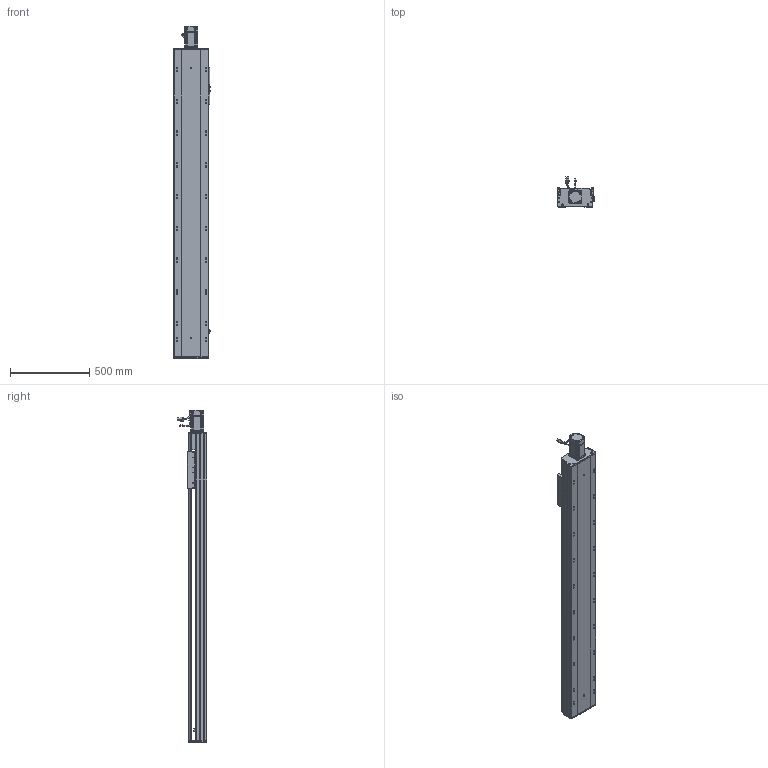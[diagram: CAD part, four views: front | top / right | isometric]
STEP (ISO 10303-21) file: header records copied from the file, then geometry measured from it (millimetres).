
FILE_DESCRIPTION (( 'STEP AP203' ), '1' );
FILE_NAME ('RY220-L2525-800-MK-邧嶺.SLDASM_1500.step', '2022-08-06T08:58:00', ( '' ), ( '' ), 'SwSTEP 2.0', 'SolidWorks 2016', '' );
FILE_SCHEMA (( 'CONFIG_CONTROL_DESIGN' ));
Length unit declared in the file: millimetre
Products named in the file (12): RY220半封闭25-32螺母铝滑块; RY220綴裔啣; 滅袉蝶18-15; RY220ヶ裔啣; RY220-L2525-800-MK-邧嶺.SLDASM_1500; 滅袉蝶18-12; 怢湛750W_ECMA-CX0807ES; 覜茼ん672; RY220-800-奻裔啣-MK_1500; RY220菁釱MK-800-邧嶺_1500; RY220-俋离672覜茼んえ; RY220电机支撑座FK20（PCD90M6）
Assembly tree (15 placements, depth 2):
  RY220-L2525-800-MK-邧嶺.SLDASM_1500
    RY220菁釱MK-800-邧嶺_1500
    RY220电机支撑座FK20（PCD90M6）
    怢湛750W_ECMA-CX0807ES
    滅袉蝶18-12  x2
    RY220ヶ裔啣
    RY220綴裔啣
    覜茼ん672  x3
    RY220半封闭25-32螺母铝滑块
    RY220-800-奻裔啣-MK_1500
    RY220-俋离672覜茼んえ
    滅袉蝶18-15  x2
Bounding box: 238.7 x 187.27 x 2090.3 mm (x, y, z)
Volume: 15783362 mm3; surface area: 4550684.6 mm2
Topology: 16 solids, 16 shells, 2340 faces, 6494 edges, 4082 vertices
Faces by surface type: cylinder 1078, plane 915, cone 285, bspline 36, sphere 16, torus 10
Entity records: 77080 total; most frequent: CARTESIAN_POINT 21811, ORIENTED_EDGE 11456, DIRECTION 10915, EDGE_CURVE 5728, AXIS2_PLACEMENT_3D 3869, VERTEX_POINT 3738, VECTOR 3177, LINE 3177
